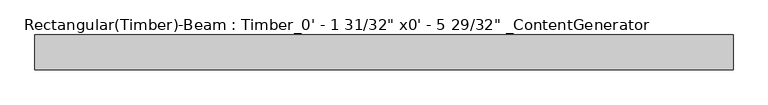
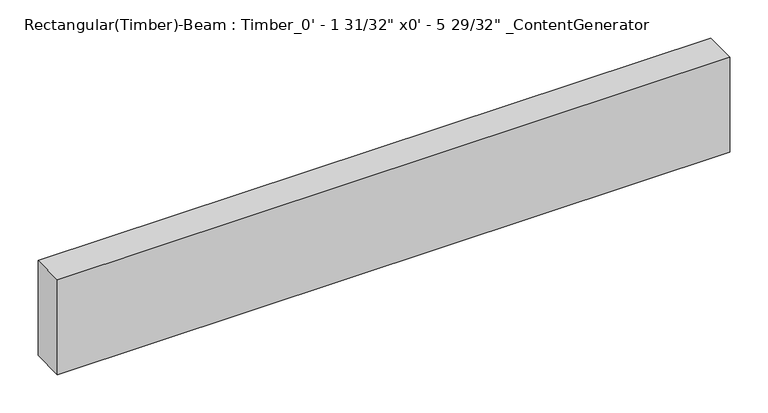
"""IFC4 building model written with IfcOpenShell, lengths in millimetres: beam geometry."""

from ifc_helpers import new_model, si_unit, frame, origin, place, context, project, spatial, polyline, outline, extrude, source, transform, mapped, element, save


def beam_52755977(model_context):
    return source(origin(), model_context, "Body", "SweptSolid", [
        extrude(outline(polyline([(509.3284875, 25.4), (509.3284875, -25.4), (-509.3284875, -25.4), (-509.3284875, 25.4), (509.3284875, 25.4)])), frame((0.0, 0.0, -76.2), z_axis=(0.0, 0.0, 1.0), x_axis=(1.0, 0.0, 0.0)), (0.0, 0.0, 1.0), 152.4),
    ])


if __name__ == "__main__":
    model = new_model("IFC4")
    model_context = context("Model", 3, world=origin())
    ifc_project = project(units=[si_unit("LENGTHUNIT", "METRE", prefix="MILLI")], contexts=[model_context])
    site = spatial("IfcSite", under=ifc_project)
    building = spatial("IfcBuilding", under=site)
    placement = place(None, origin())
    beam_shape = beam_52755977(model_context)
    element("IfcBeam", 1, ObjectType="Rectangular(Timber)-Beam : Timber_0' - 1 31/32\" x0' - 5 29/32\" _ContentGenerator", at=placement, inside=building, context=model_context, shape_type="MappedRepresentation", body=[
        mapped(beam_shape, transform((0.0, 0.0, 0.0), x_axis=(1.0, 0.0, 0.0), y_axis=(0.0, 1.0, 0.0), z_axis=(0.0, 0.0, 1.0))),
    ])
    save(model, "model.ifc")
